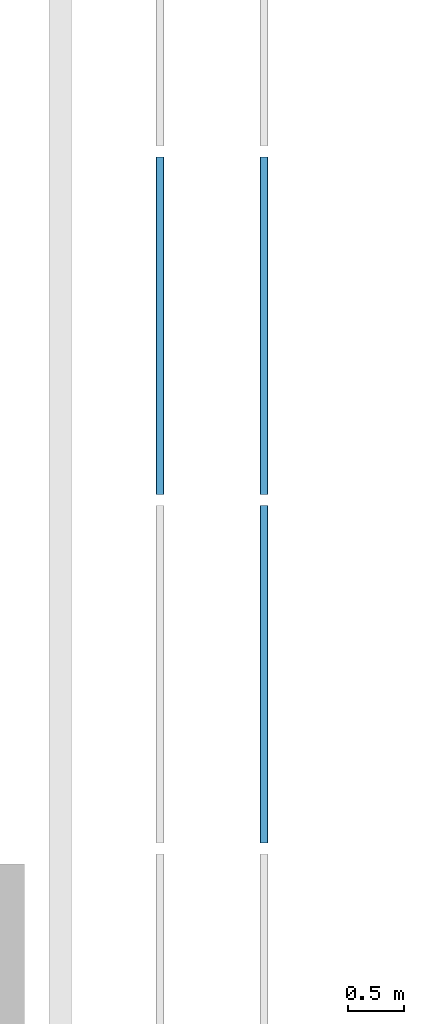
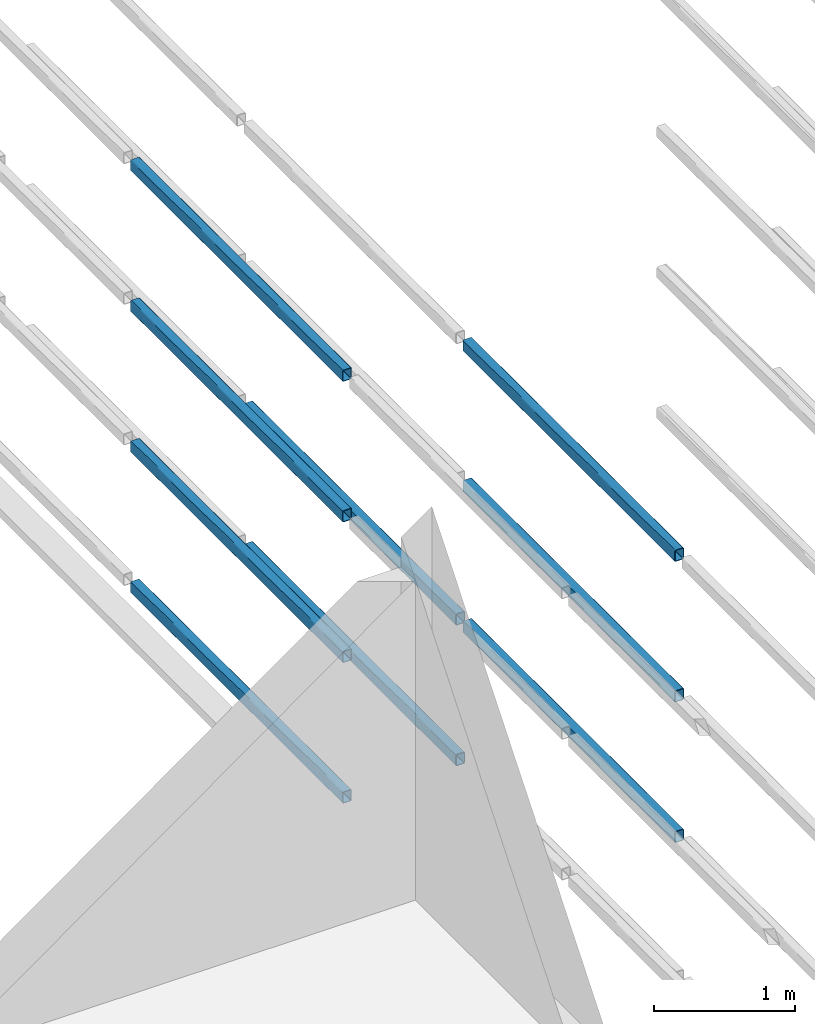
# One storey, part 15 of 290: 9 beams.
"""IFC2X3 building model written with IfcOpenShell, lengths in metres."""

from ifc_helpers import new_model, entity, si_unit, converted_unit, derived_unit, direction, frame, frame_2d, origin, place, context, subcontext, project, spatial, polyline, circle_curve, parameter, trimmed, segment, composite_curve, outline, extrude, material, type_object, element, save


model = new_model("IFC2X3")

# Units and contexts
model_context = context("Model", 3, precision=1e-05, world=origin(), true_north=direction((6.12303176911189e-17, 1.0)))
body_context = subcontext(model_context, "Body", "Model", "MODEL_VIEW")
ifc_project = project(units=[si_unit("LENGTHUNIT", "METRE"), si_unit("AREAUNIT", "SQUARE_METRE"), si_unit("VOLUMEUNIT", "CUBIC_METRE"), converted_unit("PLANEANGLEUNIT", "DEGREE", entity("IfcRatioMeasure", 0.0174532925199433), si_unit("PLANEANGLEUNIT", "RADIAN"), dimensions=[0, 0, 0, 0, 0, 0, 0]), si_unit("MASSUNIT", "GRAM", prefix="KILO"), derived_unit("MASSDENSITYUNIT", [(si_unit("MASSUNIT", "GRAM", prefix="KILO"), 1), (si_unit("LENGTHUNIT", "METRE"), -3)]), derived_unit("MOMENTOFINERTIAUNIT", [(si_unit("LENGTHUNIT", "METRE"), 4)]), si_unit("TIMEUNIT", "SECOND"), si_unit("FREQUENCYUNIT", "HERTZ"), si_unit("THERMODYNAMICTEMPERATUREUNIT", "DEGREE_CELSIUS"), derived_unit("THERMALTRANSMITTANCEUNIT", [(si_unit("MASSUNIT", "GRAM", prefix="KILO"), 1), (si_unit("THERMODYNAMICTEMPERATUREUNIT", "KELVIN"), -1), (si_unit("TIMEUNIT", "SECOND"), -3)]), derived_unit("VOLUMETRICFLOWRATEUNIT", [(si_unit("LENGTHUNIT", "METRE"), 3), (si_unit("TIMEUNIT", "SECOND"), -1)]), si_unit("ELECTRICCURRENTUNIT", "AMPERE"), si_unit("ELECTRICVOLTAGEUNIT", "VOLT"), si_unit("POWERUNIT", "WATT"), si_unit("FORCEUNIT", "NEWTON", prefix="KILO"), si_unit("ILLUMINANCEUNIT", "LUX"), si_unit("LUMINOUSFLUXUNIT", "LUMEN"), si_unit("LUMINOUSINTENSITYUNIT", "CANDELA"), derived_unit("USERDEFINED", [(si_unit("MASSUNIT", "GRAM", prefix="KILO"), -1), (si_unit("LENGTHUNIT", "METRE"), -2), (si_unit("TIMEUNIT", "SECOND"), 3), (si_unit("LUMINOUSFLUXUNIT", "LUMEN"), 1)]), derived_unit("LINEARVELOCITYUNIT", [(si_unit("LENGTHUNIT", "METRE"), 1), (si_unit("TIMEUNIT", "SECOND"), -1)]), si_unit("PRESSUREUNIT", "PASCAL"), derived_unit("USERDEFINED", [(si_unit("LENGTHUNIT", "METRE"), -2), (si_unit("MASSUNIT", "GRAM", prefix="KILO"), 1), (si_unit("TIMEUNIT", "SECOND"), -2)]), derived_unit("LINEARFORCEUNIT", [(si_unit("MASSUNIT", "GRAM", prefix="KILO"), 1), (si_unit("LENGTHUNIT", "METRE"), 1), (si_unit("TIMEUNIT", "SECOND"), -2), (si_unit("LENGTHUNIT", "METRE"), -1)]), derived_unit("PLANARFORCEUNIT", [(si_unit("MASSUNIT", "GRAM", prefix="KILO"), 1), (si_unit("LENGTHUNIT", "METRE"), 1), (si_unit("TIMEUNIT", "SECOND"), -2), (si_unit("LENGTHUNIT", "METRE"), -2)])], contexts=[model_context])

# Site, building, storey
site_placement = place(None, origin())
site = spatial("IfcSite", under=ifc_project, at=site_placement, Name="Default", CompositionType="ELEMENT")
building_placement = place(site_placement, origin())
building = spatial("IfcBuilding", under=site, at=building_placement, CompositionType="ELEMENT")
storey_placement = place(building_placement, frame((0.0, 0.0, 4.0)))
storey = spatial("IfcBuildingStorey", under=building, at=storey_placement, Name="01_OG", CompositionType="ELEMENT", Elevation=4.0)

# Beams
ifc_material = material(Name="Metall - Baustahl S235 blau")
beam_type = type_object("IfcBeamType", Name="RHS Träger (EN 10219-2):RHS 100 x 75 x 5", PredefinedType="NOTDEFINED")
beam_1_placement = place(storey_placement, frame((-205.565111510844, 45.748088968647, 0.0150000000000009), z_axis=(0.0, 0.0, 1.0), x_axis=(0.0, 1.0, 0.0)))
element("IfcBeam", 1, at=beam_1_placement, inside=storey, type_object=beam_type, material=ifc_material, Name="RHS Träger (EN 10219-2):RHS 100 x 75 x 5", ObjectType="RHS Träger (EN 10219-2):RHS 100 x 75 x 5", context=body_context, shape_type="SweptSolid", body=[
    extrude(outline(composite_curve([segment(polyline([(-0.0400000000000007, -0.0374999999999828), (0.0399999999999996, -0.0374999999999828)]), True, "CONTINUOUS"), segment(trimmed(circle_curve(frame_2d((0.0399999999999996, -0.0274999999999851), x_axis=(0.0, 1.0)), 0.01), [parameter(180.0)], [parameter(270.0)], True, "PARAMETER"), True, "CONTINUOUS"), segment(polyline([(0.0499999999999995, -0.0274999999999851), (0.0499999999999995, 0.0274999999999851)]), True, "CONTINUOUS"), segment(trimmed(circle_curve(frame_2d((0.0399999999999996, 0.0274999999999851), x_axis=(0.0, 1.0)), 0.01), [parameter(270.0)], [parameter(4.07110999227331e-13)], True, "PARAMETER"), True, "CONTINUOUS"), segment(polyline([(0.0399999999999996, 0.0375000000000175), (-0.0400000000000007, 0.0375000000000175)]), True, "CONTINUOUS"), segment(trimmed(circle_curve(frame_2d((-0.0400000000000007, 0.0274999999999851), x_axis=(0.0, 1.0)), 0.01), [parameter(360.0)], [parameter(90.0000000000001)], True, "PARAMETER"), True, "CONTINUOUS"), segment(polyline([(-0.0500000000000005, 0.0274999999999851), (-0.0500000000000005, -0.0274999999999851)]), True, "CONTINUOUS"), segment(trimmed(circle_curve(frame_2d((-0.0400000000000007, -0.0274999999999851), x_axis=(0.0, 1.0)), 0.01), [parameter(90.0000000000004)], [parameter(180.0)], True, "PARAMETER"), True, "CONTINUOUS")], self_intersect=False), holes=[composite_curve([segment(trimmed(circle_curve(frame_2d((-0.0400000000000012, 0.0274999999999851), x_axis=(0.0, 1.0)), 0.005), [parameter(360.0)], [parameter(89.9999999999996)], True, "PARAMETER"), False, "CONTINUOUS"), segment(polyline([(-0.0400000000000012, 0.0325000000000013), (0.0399999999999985, 0.0325000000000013)]), True, "CONTINUOUS"), segment(trimmed(circle_curve(frame_2d((0.0399999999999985, 0.0274999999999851), x_axis=(0.0, 1.0)), 0.005), [parameter(270.0)], [parameter(0.0)], True, "PARAMETER"), False, "CONTINUOUS"), segment(polyline([(0.0449999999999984, 0.0274999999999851), (0.0449999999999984, -0.0274999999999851)]), True, "CONTINUOUS"), segment(trimmed(circle_curve(frame_2d((0.0399999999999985, -0.0274999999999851), x_axis=(0.0, 1.0)), 0.005), [parameter(180.0)], [parameter(269.999999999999)], True, "PARAMETER"), False, "CONTINUOUS"), segment(polyline([(0.0399999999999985, -0.0325000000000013), (-0.0400000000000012, -0.0325000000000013)]), True, "CONTINUOUS"), segment(trimmed(circle_curve(frame_2d((-0.0400000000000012, -0.0274999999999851), x_axis=(0.0, 1.0)), 0.005), [parameter(90.0000000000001)], [parameter(180.0)], True, "PARAMETER"), False, "CONTINUOUS"), segment(polyline([(-0.0450000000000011, -0.0274999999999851), (-0.0450000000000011, 0.0274999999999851)]), True, "CONTINUOUS")], self_intersect=False)]), frame((0.000100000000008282, -0.0375000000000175, -0.0500000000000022), z_axis=(1.0, 0.0, 0.0), x_axis=(0.0, 0.0, -1.0)), (0.0, 0.0, 1.0), 2.99979999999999),
])
beam_2_placement = place(storey_placement, frame((-205.565111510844, 45.748088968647, 1.23), z_axis=(0.0, 0.0, 1.0), x_axis=(0.0, 1.0, 0.0)))
element("IfcBeam", 2, at=beam_2_placement, inside=storey, type_object=beam_type, material=ifc_material, Name="RHS Träger (EN 10219-2):RHS 100 x 75 x 5", ObjectType="RHS Träger (EN 10219-2):RHS 100 x 75 x 5", context=body_context, shape_type="SweptSolid", body=[
    extrude(outline(composite_curve([segment(polyline([(-0.0399999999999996, -0.0374999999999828), (0.0399999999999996, -0.0374999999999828)]), True, "CONTINUOUS"), segment(trimmed(circle_curve(frame_2d((0.0399999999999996, -0.0274999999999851), x_axis=(0.0, 1.0)), 0.01), [parameter(180.0)], [parameter(270.0)], True, "PARAMETER"), True, "CONTINUOUS"), segment(polyline([(0.0500000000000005, -0.0274999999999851), (0.0500000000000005, 0.0274999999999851)]), True, "CONTINUOUS"), segment(trimmed(circle_curve(frame_2d((0.0399999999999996, 0.0274999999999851), x_axis=(0.0, 1.0)), 0.01), [parameter(270.0)], [parameter(4.07110999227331e-13)], True, "PARAMETER"), True, "CONTINUOUS"), segment(polyline([(0.0399999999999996, 0.0375000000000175), (-0.0399999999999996, 0.0375000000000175)]), True, "CONTINUOUS"), segment(trimmed(circle_curve(frame_2d((-0.0399999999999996, 0.0274999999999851), x_axis=(0.0, 1.0)), 0.01), [parameter(360.0)], [parameter(90.0000000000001)], True, "PARAMETER"), True, "CONTINUOUS"), segment(polyline([(-0.0499999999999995, 0.0274999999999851), (-0.0499999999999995, -0.0274999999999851)]), True, "CONTINUOUS"), segment(trimmed(circle_curve(frame_2d((-0.0399999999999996, -0.0274999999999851), x_axis=(0.0, 1.0)), 0.01), [parameter(90.0000000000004)], [parameter(180.0)], True, "PARAMETER"), True, "CONTINUOUS")], self_intersect=False), holes=[composite_curve([segment(trimmed(circle_curve(frame_2d((-0.0400000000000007, 0.0274999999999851), x_axis=(0.0, 1.0)), 0.005), [parameter(360.0)], [parameter(89.9999999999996)], True, "PARAMETER"), False, "CONTINUOUS"), segment(polyline([(-0.0400000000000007, 0.0325000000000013), (0.0399999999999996, 0.0325000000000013)]), True, "CONTINUOUS"), segment(trimmed(circle_curve(frame_2d((0.0399999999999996, 0.0274999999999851), x_axis=(0.0, 1.0)), 0.005), [parameter(270.0)], [parameter(0.0)], True, "PARAMETER"), False, "CONTINUOUS"), segment(polyline([(0.0449999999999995, 0.0274999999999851), (0.0449999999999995, -0.0274999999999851)]), True, "CONTINUOUS"), segment(trimmed(circle_curve(frame_2d((0.0399999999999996, -0.0274999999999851), x_axis=(0.0, 1.0)), 0.005), [parameter(180.0)], [parameter(269.999999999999)], True, "PARAMETER"), False, "CONTINUOUS"), segment(polyline([(0.0399999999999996, -0.0325000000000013), (-0.0400000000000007, -0.0325000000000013)]), True, "CONTINUOUS"), segment(trimmed(circle_curve(frame_2d((-0.0400000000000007, -0.0274999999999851), x_axis=(0.0, 1.0)), 0.005), [parameter(90.0000000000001)], [parameter(180.0)], True, "PARAMETER"), False, "CONTINUOUS"), segment(polyline([(-0.0450000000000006, -0.0274999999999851), (-0.0450000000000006, 0.0274999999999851)]), True, "CONTINUOUS")], self_intersect=False)]), frame((0.000100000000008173, -0.0375000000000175, -0.0500000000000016), z_axis=(1.0, 0.0, 0.0), x_axis=(0.0, 0.0, -1.0)), (0.0, 0.0, 1.0), 2.99979999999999),
])
beam_3_placement = place(storey_placement, frame((-205.565111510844, 45.748088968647, 2.445), z_axis=(0.0, 0.0, 1.0), x_axis=(0.0, 1.0, 0.0)))
element("IfcBeam", 3, at=beam_3_placement, inside=storey, type_object=beam_type, material=ifc_material, Name="RHS Träger (EN 10219-2):RHS 100 x 75 x 5", ObjectType="RHS Träger (EN 10219-2):RHS 100 x 75 x 5", context=body_context, shape_type="SweptSolid", body=[
    extrude(outline(composite_curve([segment(polyline([(-0.0399999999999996, -0.0374999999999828), (0.0399999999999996, -0.0374999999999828)]), True, "CONTINUOUS"), segment(trimmed(circle_curve(frame_2d((0.0399999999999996, -0.0274999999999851), x_axis=(0.0, 1.0)), 0.01), [parameter(180.0)], [parameter(270.0)], True, "PARAMETER"), True, "CONTINUOUS"), segment(polyline([(0.0500000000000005, -0.0274999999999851), (0.0500000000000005, 0.0274999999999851)]), True, "CONTINUOUS"), segment(trimmed(circle_curve(frame_2d((0.0399999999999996, 0.0274999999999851), x_axis=(0.0, 1.0)), 0.01), [parameter(270.0)], [parameter(4.07110999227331e-13)], True, "PARAMETER"), True, "CONTINUOUS"), segment(polyline([(0.0399999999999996, 0.0375000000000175), (-0.0399999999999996, 0.0375000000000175)]), True, "CONTINUOUS"), segment(trimmed(circle_curve(frame_2d((-0.0399999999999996, 0.0274999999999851), x_axis=(0.0, 1.0)), 0.01), [parameter(360.0)], [parameter(90.0000000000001)], True, "PARAMETER"), True, "CONTINUOUS"), segment(polyline([(-0.0499999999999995, 0.0274999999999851), (-0.0499999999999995, -0.0274999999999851)]), True, "CONTINUOUS"), segment(trimmed(circle_curve(frame_2d((-0.0399999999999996, -0.0274999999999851), x_axis=(0.0, 1.0)), 0.01), [parameter(90.0000000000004)], [parameter(180.0)], True, "PARAMETER"), True, "CONTINUOUS")], self_intersect=False), holes=[composite_curve([segment(trimmed(circle_curve(frame_2d((-0.0400000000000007, 0.0274999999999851), x_axis=(0.0, 1.0)), 0.005), [parameter(360.0)], [parameter(89.9999999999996)], True, "PARAMETER"), False, "CONTINUOUS"), segment(polyline([(-0.0400000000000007, 0.0325000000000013), (0.0399999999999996, 0.0325000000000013)]), True, "CONTINUOUS"), segment(trimmed(circle_curve(frame_2d((0.0399999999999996, 0.0274999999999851), x_axis=(0.0, 1.0)), 0.005), [parameter(270.0)], [parameter(0.0)], True, "PARAMETER"), False, "CONTINUOUS"), segment(polyline([(0.0449999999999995, 0.0274999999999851), (0.0449999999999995, -0.0274999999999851)]), True, "CONTINUOUS"), segment(trimmed(circle_curve(frame_2d((0.0399999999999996, -0.0274999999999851), x_axis=(0.0, 1.0)), 0.005), [parameter(180.0)], [parameter(269.999999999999)], True, "PARAMETER"), False, "CONTINUOUS"), segment(polyline([(0.0399999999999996, -0.0325000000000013), (-0.0400000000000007, -0.0325000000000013)]), True, "CONTINUOUS"), segment(trimmed(circle_curve(frame_2d((-0.0400000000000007, -0.0274999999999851), x_axis=(0.0, 1.0)), 0.005), [parameter(90.0000000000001)], [parameter(180.0)], True, "PARAMETER"), False, "CONTINUOUS"), segment(polyline([(-0.0450000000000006, -0.0274999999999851), (-0.0450000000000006, 0.0274999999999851)]), True, "CONTINUOUS")], self_intersect=False)]), frame((0.000100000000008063, -0.0375000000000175, -0.0500000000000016), z_axis=(1.0, 0.0, 0.0), x_axis=(0.0, 0.0, -1.0)), (0.0, 0.0, 1.0), 2.99979999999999),
])
beam_4_placement = place(storey_placement, frame((-206.415111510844, 48.848088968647, -1.2), z_axis=(0.0, 0.0, 1.0), x_axis=(0.0, 1.0, 0.0)))
element("IfcBeam", 4, at=beam_4_placement, inside=storey, type_object=beam_type, material=ifc_material, Name="RHS Träger (EN 10219-2):RHS 100 x 75 x 5", ObjectType="RHS Träger (EN 10219-2):RHS 100 x 75 x 5", context=body_context, shape_type="SweptSolid", body=[
    extrude(outline(composite_curve([segment(trimmed(circle_curve(frame_2d((-0.0274999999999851, -0.0400000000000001), x_axis=(1.0, 0.0)), 0.01), [parameter(180.0)], [parameter(270.0)], True, "PARAMETER"), True, "CONTINUOUS"), segment(polyline([(-0.0274999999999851, -0.05), (0.0274999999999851, -0.05)]), True, "CONTINUOUS"), segment(trimmed(circle_curve(frame_2d((0.0274999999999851, -0.0400000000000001), x_axis=(1.0, 0.0)), 0.01), [parameter(270.0)], [parameter(5.08888749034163e-14)], True, "PARAMETER"), True, "CONTINUOUS"), segment(polyline([(0.0375000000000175, -0.0400000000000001), (0.0375000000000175, 0.0400000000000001)]), True, "CONTINUOUS"), segment(trimmed(circle_curve(frame_2d((0.0274999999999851, 0.0400000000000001), x_axis=(1.0, 0.0)), 0.01), [parameter(360.0)], [parameter(89.9999999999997)], True, "PARAMETER"), True, "CONTINUOUS"), segment(polyline([(0.0274999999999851, 0.05), (-0.0274999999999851, 0.05)]), True, "CONTINUOUS"), segment(trimmed(circle_curve(frame_2d((-0.0274999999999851, 0.0400000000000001), x_axis=(1.0, 0.0)), 0.01), [parameter(90.0000000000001)], [parameter(180.0)], True, "PARAMETER"), True, "CONTINUOUS"), segment(polyline([(-0.0374999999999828, 0.0400000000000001), (-0.0374999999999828, -0.0400000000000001)]), True, "CONTINUOUS")], self_intersect=False), holes=[composite_curve([segment(polyline([(0.0274999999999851, -0.0450000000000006), (-0.0274999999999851, -0.0450000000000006)]), True, "CONTINUOUS"), segment(trimmed(circle_curve(frame_2d((-0.0274999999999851, -0.0400000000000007), x_axis=(1.0, 0.0)), 0.005), [parameter(180.0)], [parameter(270.0)], True, "PARAMETER"), False, "CONTINUOUS"), segment(polyline([(-0.0325000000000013, -0.0400000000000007), (-0.0325000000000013, 0.039999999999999)]), True, "CONTINUOUS"), segment(trimmed(circle_curve(frame_2d((-0.0274999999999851, 0.039999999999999), x_axis=(1.0, 0.0)), 0.005), [parameter(90.0000000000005)], [parameter(180.0)], True, "PARAMETER"), False, "CONTINUOUS"), segment(polyline([(-0.0274999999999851, 0.044999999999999), (0.0274999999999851, 0.044999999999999)]), True, "CONTINUOUS"), segment(trimmed(circle_curve(frame_2d((0.0274999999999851, 0.039999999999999), x_axis=(1.0, 0.0)), 0.005), [parameter(0.0)], [parameter(90.0000000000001)], True, "PARAMETER"), False, "CONTINUOUS"), segment(polyline([(0.0325000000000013, 0.039999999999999), (0.0325000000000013, -0.0400000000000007)]), True, "CONTINUOUS"), segment(trimmed(circle_curve(frame_2d((0.0274999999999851, -0.0400000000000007), x_axis=(1.0, 0.0)), 0.005), [parameter(270.0)], [parameter(4.07110999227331e-13)], True, "PARAMETER"), False, "CONTINUOUS")], self_intersect=False)]), frame((0.000100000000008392, 0.0375000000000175, -0.0500000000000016), z_axis=(1.0, 0.0, 0.0), x_axis=(0.0, -1.0, 0.0)), (0.0, 0.0, 1.0), 2.99979999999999),
])
beam_5_placement = place(storey_placement, frame((-206.415111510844, 48.848088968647, 0.0150000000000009), z_axis=(0.0, 0.0, 1.0), x_axis=(0.0, 1.0, 0.0)))
element("IfcBeam", 5, at=beam_5_placement, inside=storey, type_object=beam_type, material=ifc_material, Name="RHS Träger (EN 10219-2):RHS 100 x 75 x 5", ObjectType="RHS Träger (EN 10219-2):RHS 100 x 75 x 5", context=body_context, shape_type="SweptSolid", body=[
    extrude(outline(composite_curve([segment(trimmed(circle_curve(frame_2d((-0.0274999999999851, -0.0400000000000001), x_axis=(1.0, 0.0)), 0.01), [parameter(180.0)], [parameter(270.0)], True, "PARAMETER"), True, "CONTINUOUS"), segment(polyline([(-0.0274999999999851, -0.05), (0.0274999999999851, -0.05)]), True, "CONTINUOUS"), segment(trimmed(circle_curve(frame_2d((0.0274999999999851, -0.0400000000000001), x_axis=(1.0, 0.0)), 0.01), [parameter(270.0)], [parameter(5.08888749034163e-14)], True, "PARAMETER"), True, "CONTINUOUS"), segment(polyline([(0.0375000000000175, -0.0400000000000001), (0.0375000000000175, 0.0400000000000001)]), True, "CONTINUOUS"), segment(trimmed(circle_curve(frame_2d((0.0274999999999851, 0.0400000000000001), x_axis=(1.0, 0.0)), 0.01), [parameter(360.0)], [parameter(89.9999999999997)], True, "PARAMETER"), True, "CONTINUOUS"), segment(polyline([(0.0274999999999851, 0.05), (-0.0274999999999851, 0.05)]), True, "CONTINUOUS"), segment(trimmed(circle_curve(frame_2d((-0.0274999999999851, 0.0400000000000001), x_axis=(1.0, 0.0)), 0.01), [parameter(90.0000000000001)], [parameter(180.0)], True, "PARAMETER"), True, "CONTINUOUS"), segment(polyline([(-0.0374999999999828, 0.0400000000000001), (-0.0374999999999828, -0.0400000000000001)]), True, "CONTINUOUS")], self_intersect=False), holes=[composite_curve([segment(polyline([(0.0274999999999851, -0.0450000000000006), (-0.0274999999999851, -0.0450000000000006)]), True, "CONTINUOUS"), segment(trimmed(circle_curve(frame_2d((-0.0274999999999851, -0.0400000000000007), x_axis=(1.0, 0.0)), 0.005), [parameter(180.0)], [parameter(270.0)], True, "PARAMETER"), False, "CONTINUOUS"), segment(polyline([(-0.0325000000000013, -0.0400000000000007), (-0.0325000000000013, 0.039999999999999)]), True, "CONTINUOUS"), segment(trimmed(circle_curve(frame_2d((-0.0274999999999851, 0.039999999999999), x_axis=(1.0, 0.0)), 0.005), [parameter(90.0000000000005)], [parameter(180.0)], True, "PARAMETER"), False, "CONTINUOUS"), segment(polyline([(-0.0274999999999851, 0.044999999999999), (0.0274999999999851, 0.044999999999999)]), True, "CONTINUOUS"), segment(trimmed(circle_curve(frame_2d((0.0274999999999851, 0.039999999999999), x_axis=(1.0, 0.0)), 0.005), [parameter(0.0)], [parameter(90.0000000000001)], True, "PARAMETER"), False, "CONTINUOUS"), segment(polyline([(0.0325000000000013, 0.039999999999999), (0.0325000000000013, -0.0400000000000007)]), True, "CONTINUOUS"), segment(trimmed(circle_curve(frame_2d((0.0274999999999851, -0.0400000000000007), x_axis=(1.0, 0.0)), 0.005), [parameter(270.0)], [parameter(4.07110999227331e-13)], True, "PARAMETER"), False, "CONTINUOUS")], self_intersect=False)]), frame((0.000100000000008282, 0.0375000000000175, -0.0500000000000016), z_axis=(1.0, 0.0, 0.0), x_axis=(0.0, -1.0, 0.0)), (0.0, 0.0, 1.0), 2.99979999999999),
])
beam_6_placement = place(storey_placement, frame((-206.415111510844, 48.848088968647, 1.23), z_axis=(0.0, 0.0, 1.0), x_axis=(0.0, 1.0, 0.0)))
element("IfcBeam", 6, at=beam_6_placement, inside=storey, type_object=beam_type, material=ifc_material, Name="RHS Träger (EN 10219-2):RHS 100 x 75 x 5", ObjectType="RHS Träger (EN 10219-2):RHS 100 x 75 x 5", context=body_context, shape_type="SweptSolid", body=[
    extrude(outline(composite_curve([segment(trimmed(circle_curve(frame_2d((-0.0274999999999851, -0.0399999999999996), x_axis=(1.0, 0.0)), 0.01), [parameter(180.0)], [parameter(270.0)], True, "PARAMETER"), True, "CONTINUOUS"), segment(polyline([(-0.0274999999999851, -0.0499999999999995), (0.0274999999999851, -0.0499999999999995)]), True, "CONTINUOUS"), segment(trimmed(circle_curve(frame_2d((0.0274999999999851, -0.0399999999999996), x_axis=(1.0, 0.0)), 0.01), [parameter(270.0)], [parameter(5.08888749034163e-14)], True, "PARAMETER"), True, "CONTINUOUS"), segment(polyline([(0.0375000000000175, -0.0399999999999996), (0.0375000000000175, 0.0399999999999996)]), True, "CONTINUOUS"), segment(trimmed(circle_curve(frame_2d((0.0274999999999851, 0.0399999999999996), x_axis=(1.0, 0.0)), 0.01), [parameter(360.0)], [parameter(89.9999999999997)], True, "PARAMETER"), True, "CONTINUOUS"), segment(polyline([(0.0274999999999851, 0.0500000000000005), (-0.0274999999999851, 0.0500000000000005)]), True, "CONTINUOUS"), segment(trimmed(circle_curve(frame_2d((-0.0274999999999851, 0.0399999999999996), x_axis=(1.0, 0.0)), 0.01), [parameter(90.0000000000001)], [parameter(180.0)], True, "PARAMETER"), True, "CONTINUOUS"), segment(polyline([(-0.0374999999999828, 0.0399999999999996), (-0.0374999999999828, -0.0399999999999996)]), True, "CONTINUOUS")], self_intersect=False), holes=[composite_curve([segment(polyline([(0.0274999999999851, -0.0450000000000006), (-0.0274999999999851, -0.0450000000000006)]), True, "CONTINUOUS"), segment(trimmed(circle_curve(frame_2d((-0.0274999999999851, -0.0400000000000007), x_axis=(1.0, 0.0)), 0.005), [parameter(180.0)], [parameter(270.0)], True, "PARAMETER"), False, "CONTINUOUS"), segment(polyline([(-0.0325000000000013, -0.0400000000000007), (-0.0325000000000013, 0.0399999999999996)]), True, "CONTINUOUS"), segment(trimmed(circle_curve(frame_2d((-0.0274999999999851, 0.0399999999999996), x_axis=(1.0, 0.0)), 0.005), [parameter(90.0000000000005)], [parameter(180.0)], True, "PARAMETER"), False, "CONTINUOUS"), segment(polyline([(-0.0274999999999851, 0.0449999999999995), (0.0274999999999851, 0.0449999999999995)]), True, "CONTINUOUS"), segment(trimmed(circle_curve(frame_2d((0.0274999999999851, 0.0399999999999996), x_axis=(1.0, 0.0)), 0.005), [parameter(0.0)], [parameter(90.0000000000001)], True, "PARAMETER"), False, "CONTINUOUS"), segment(polyline([(0.0325000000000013, 0.0399999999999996), (0.0325000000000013, -0.0400000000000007)]), True, "CONTINUOUS"), segment(trimmed(circle_curve(frame_2d((0.0274999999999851, -0.0400000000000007), x_axis=(1.0, 0.0)), 0.005), [parameter(270.0)], [parameter(4.07110999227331e-13)], True, "PARAMETER"), False, "CONTINUOUS")], self_intersect=False)]), frame((0.000100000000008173, 0.0375000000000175, -0.0500000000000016), z_axis=(1.0, 0.0, 0.0), x_axis=(0.0, -1.0, 0.0)), (0.0, 0.0, 1.0), 2.99979999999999),
])
beam_7_placement = place(storey_placement, frame((-206.415111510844, 48.848088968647, 2.445), z_axis=(0.0, 0.0, 1.0), x_axis=(0.0, 1.0, 0.0)))
element("IfcBeam", 7, at=beam_7_placement, inside=storey, type_object=beam_type, material=ifc_material, Name="RHS Träger (EN 10219-2):RHS 100 x 75 x 5", ObjectType="RHS Träger (EN 10219-2):RHS 100 x 75 x 5", context=body_context, shape_type="SweptSolid", body=[
    extrude(outline(composite_curve([segment(trimmed(circle_curve(frame_2d((-0.0274999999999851, -0.0399999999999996), x_axis=(1.0, 0.0)), 0.01), [parameter(180.0)], [parameter(270.0)], True, "PARAMETER"), True, "CONTINUOUS"), segment(polyline([(-0.0274999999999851, -0.0499999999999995), (0.0274999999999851, -0.0499999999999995)]), True, "CONTINUOUS"), segment(trimmed(circle_curve(frame_2d((0.0274999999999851, -0.0399999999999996), x_axis=(1.0, 0.0)), 0.01), [parameter(270.0)], [parameter(5.08888749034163e-14)], True, "PARAMETER"), True, "CONTINUOUS"), segment(polyline([(0.0375000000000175, -0.0399999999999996), (0.0375000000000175, 0.0399999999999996)]), True, "CONTINUOUS"), segment(trimmed(circle_curve(frame_2d((0.0274999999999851, 0.0399999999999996), x_axis=(1.0, 0.0)), 0.01), [parameter(360.0)], [parameter(89.9999999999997)], True, "PARAMETER"), True, "CONTINUOUS"), segment(polyline([(0.0274999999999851, 0.0500000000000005), (-0.0274999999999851, 0.0500000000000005)]), True, "CONTINUOUS"), segment(trimmed(circle_curve(frame_2d((-0.0274999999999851, 0.0399999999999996), x_axis=(1.0, 0.0)), 0.01), [parameter(90.0000000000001)], [parameter(180.0)], True, "PARAMETER"), True, "CONTINUOUS"), segment(polyline([(-0.0374999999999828, 0.0399999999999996), (-0.0374999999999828, -0.0399999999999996)]), True, "CONTINUOUS")], self_intersect=False), holes=[composite_curve([segment(polyline([(0.0274999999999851, -0.0450000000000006), (-0.0274999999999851, -0.0450000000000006)]), True, "CONTINUOUS"), segment(trimmed(circle_curve(frame_2d((-0.0274999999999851, -0.0400000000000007), x_axis=(1.0, 0.0)), 0.005), [parameter(180.0)], [parameter(270.0)], True, "PARAMETER"), False, "CONTINUOUS"), segment(polyline([(-0.0325000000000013, -0.0400000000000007), (-0.0325000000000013, 0.0399999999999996)]), True, "CONTINUOUS"), segment(trimmed(circle_curve(frame_2d((-0.0274999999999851, 0.0399999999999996), x_axis=(1.0, 0.0)), 0.005), [parameter(90.0000000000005)], [parameter(180.0)], True, "PARAMETER"), False, "CONTINUOUS"), segment(polyline([(-0.0274999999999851, 0.0449999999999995), (0.0274999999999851, 0.0449999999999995)]), True, "CONTINUOUS"), segment(trimmed(circle_curve(frame_2d((0.0274999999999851, 0.0399999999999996), x_axis=(1.0, 0.0)), 0.005), [parameter(0.0)], [parameter(90.0000000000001)], True, "PARAMETER"), False, "CONTINUOUS"), segment(polyline([(0.0325000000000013, 0.0399999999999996), (0.0325000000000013, -0.0400000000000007)]), True, "CONTINUOUS"), segment(trimmed(circle_curve(frame_2d((0.0274999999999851, -0.0400000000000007), x_axis=(1.0, 0.0)), 0.005), [parameter(270.0)], [parameter(4.07110999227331e-13)], True, "PARAMETER"), False, "CONTINUOUS")], self_intersect=False)]), frame((0.000100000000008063, 0.0375000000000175, -0.0500000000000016), z_axis=(1.0, 0.0, 0.0), x_axis=(0.0, -1.0, 0.0)), (0.0, 0.0, 1.0), 2.99979999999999),
])
beam_8_placement = place(storey_placement, frame((-205.565111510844, 48.848088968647, -1.2), z_axis=(0.0, 0.0, 1.0), x_axis=(0.0, 1.0, 0.0)))
element("IfcBeam", 8, at=beam_8_placement, inside=storey, type_object=beam_type, material=ifc_material, Name="RHS Träger (EN 10219-2):RHS 100 x 75 x 5", ObjectType="RHS Träger (EN 10219-2):RHS 100 x 75 x 5", context=body_context, shape_type="SweptSolid", body=[
    extrude(outline(composite_curve([segment(polyline([(-0.0400000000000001, -0.0374999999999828), (0.0400000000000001, -0.0374999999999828)]), True, "CONTINUOUS"), segment(trimmed(circle_curve(frame_2d((0.0400000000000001, -0.0274999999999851), x_axis=(0.0, 1.0)), 0.01), [parameter(180.0)], [parameter(270.0)], True, "PARAMETER"), True, "CONTINUOUS"), segment(polyline([(0.05, -0.0274999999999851), (0.05, 0.0274999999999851)]), True, "CONTINUOUS"), segment(trimmed(circle_curve(frame_2d((0.0400000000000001, 0.0274999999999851), x_axis=(0.0, 1.0)), 0.01), [parameter(270.0)], [parameter(4.07110999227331e-13)], True, "PARAMETER"), True, "CONTINUOUS"), segment(polyline([(0.0400000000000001, 0.0375000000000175), (-0.0400000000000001, 0.0375000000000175)]), True, "CONTINUOUS"), segment(trimmed(circle_curve(frame_2d((-0.0400000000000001, 0.0274999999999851), x_axis=(0.0, 1.0)), 0.01), [parameter(360.0)], [parameter(90.0000000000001)], True, "PARAMETER"), True, "CONTINUOUS"), segment(polyline([(-0.05, 0.0274999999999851), (-0.05, -0.0274999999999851)]), True, "CONTINUOUS"), segment(trimmed(circle_curve(frame_2d((-0.0400000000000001, -0.0274999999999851), x_axis=(0.0, 1.0)), 0.01), [parameter(90.0000000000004)], [parameter(180.0)], True, "PARAMETER"), True, "CONTINUOUS")], self_intersect=False), holes=[composite_curve([segment(trimmed(circle_curve(frame_2d((-0.0400000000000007, 0.0274999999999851), x_axis=(0.0, 1.0)), 0.005), [parameter(360.0)], [parameter(89.9999999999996)], True, "PARAMETER"), False, "CONTINUOUS"), segment(polyline([(-0.0400000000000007, 0.0325000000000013), (0.039999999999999, 0.0325000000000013)]), True, "CONTINUOUS"), segment(trimmed(circle_curve(frame_2d((0.039999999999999, 0.0274999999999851), x_axis=(0.0, 1.0)), 0.005), [parameter(270.0)], [parameter(0.0)], True, "PARAMETER"), False, "CONTINUOUS"), segment(polyline([(0.044999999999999, 0.0274999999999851), (0.044999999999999, -0.0274999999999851)]), True, "CONTINUOUS"), segment(trimmed(circle_curve(frame_2d((0.039999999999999, -0.0274999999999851), x_axis=(0.0, 1.0)), 0.005), [parameter(180.0)], [parameter(269.999999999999)], True, "PARAMETER"), False, "CONTINUOUS"), segment(polyline([(0.039999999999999, -0.0325000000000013), (-0.0400000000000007, -0.0325000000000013)]), True, "CONTINUOUS"), segment(trimmed(circle_curve(frame_2d((-0.0400000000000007, -0.0274999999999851), x_axis=(0.0, 1.0)), 0.005), [parameter(90.0000000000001)], [parameter(180.0)], True, "PARAMETER"), False, "CONTINUOUS"), segment(polyline([(-0.0450000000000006, -0.0274999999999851), (-0.0450000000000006, 0.0274999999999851)]), True, "CONTINUOUS")], self_intersect=False)]), frame((0.000100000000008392, -0.0375000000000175, -0.0500000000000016), z_axis=(1.0, 0.0, 0.0), x_axis=(0.0, 0.0, -1.0)), (0.0, 0.0, 1.0), 2.99979999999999),
])
beam_9_placement = place(storey_placement, frame((-205.565111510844, 48.848088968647, 0.0150000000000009), z_axis=(0.0, 0.0, 1.0), x_axis=(0.0, 1.0, 0.0)))
element("IfcBeam", 9, at=beam_9_placement, inside=storey, type_object=beam_type, material=ifc_material, Name="RHS Träger (EN 10219-2):RHS 100 x 75 x 5", ObjectType="RHS Träger (EN 10219-2):RHS 100 x 75 x 5", context=body_context, shape_type="SweptSolid", body=[
    extrude(outline(composite_curve([segment(polyline([(-0.0400000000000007, -0.0374999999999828), (0.0399999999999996, -0.0374999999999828)]), True, "CONTINUOUS"), segment(trimmed(circle_curve(frame_2d((0.0399999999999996, -0.0274999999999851), x_axis=(0.0, 1.0)), 0.01), [parameter(180.0)], [parameter(270.0)], True, "PARAMETER"), True, "CONTINUOUS"), segment(polyline([(0.0499999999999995, -0.0274999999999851), (0.0499999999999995, 0.0274999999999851)]), True, "CONTINUOUS"), segment(trimmed(circle_curve(frame_2d((0.0399999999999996, 0.0274999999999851), x_axis=(0.0, 1.0)), 0.01), [parameter(270.0)], [parameter(4.07110999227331e-13)], True, "PARAMETER"), True, "CONTINUOUS"), segment(polyline([(0.0399999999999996, 0.0375000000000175), (-0.0400000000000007, 0.0375000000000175)]), True, "CONTINUOUS"), segment(trimmed(circle_curve(frame_2d((-0.0400000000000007, 0.0274999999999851), x_axis=(0.0, 1.0)), 0.01), [parameter(360.0)], [parameter(90.0000000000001)], True, "PARAMETER"), True, "CONTINUOUS"), segment(polyline([(-0.0500000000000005, 0.0274999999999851), (-0.0500000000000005, -0.0274999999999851)]), True, "CONTINUOUS"), segment(trimmed(circle_curve(frame_2d((-0.0400000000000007, -0.0274999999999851), x_axis=(0.0, 1.0)), 0.01), [parameter(90.0000000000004)], [parameter(180.0)], True, "PARAMETER"), True, "CONTINUOUS")], self_intersect=False), holes=[composite_curve([segment(trimmed(circle_curve(frame_2d((-0.0400000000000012, 0.0274999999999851), x_axis=(0.0, 1.0)), 0.005), [parameter(360.0)], [parameter(89.9999999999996)], True, "PARAMETER"), False, "CONTINUOUS"), segment(polyline([(-0.0400000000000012, 0.0325000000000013), (0.0399999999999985, 0.0325000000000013)]), True, "CONTINUOUS"), segment(trimmed(circle_curve(frame_2d((0.0399999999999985, 0.0274999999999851), x_axis=(0.0, 1.0)), 0.005), [parameter(270.0)], [parameter(0.0)], True, "PARAMETER"), False, "CONTINUOUS"), segment(polyline([(0.0449999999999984, 0.0274999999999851), (0.0449999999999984, -0.0274999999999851)]), True, "CONTINUOUS"), segment(trimmed(circle_curve(frame_2d((0.0399999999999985, -0.0274999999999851), x_axis=(0.0, 1.0)), 0.005), [parameter(180.0)], [parameter(269.999999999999)], True, "PARAMETER"), False, "CONTINUOUS"), segment(polyline([(0.0399999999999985, -0.0325000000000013), (-0.0400000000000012, -0.0325000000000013)]), True, "CONTINUOUS"), segment(trimmed(circle_curve(frame_2d((-0.0400000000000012, -0.0274999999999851), x_axis=(0.0, 1.0)), 0.005), [parameter(90.0000000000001)], [parameter(180.0)], True, "PARAMETER"), False, "CONTINUOUS"), segment(polyline([(-0.0450000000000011, -0.0274999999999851), (-0.0450000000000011, 0.0274999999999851)]), True, "CONTINUOUS")], self_intersect=False)]), frame((0.000100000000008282, -0.0375000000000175, -0.0500000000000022), z_axis=(1.0, 0.0, 0.0), x_axis=(0.0, 0.0, -1.0)), (0.0, 0.0, 1.0), 2.99979999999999),
])

save(model, "model.ifc")
